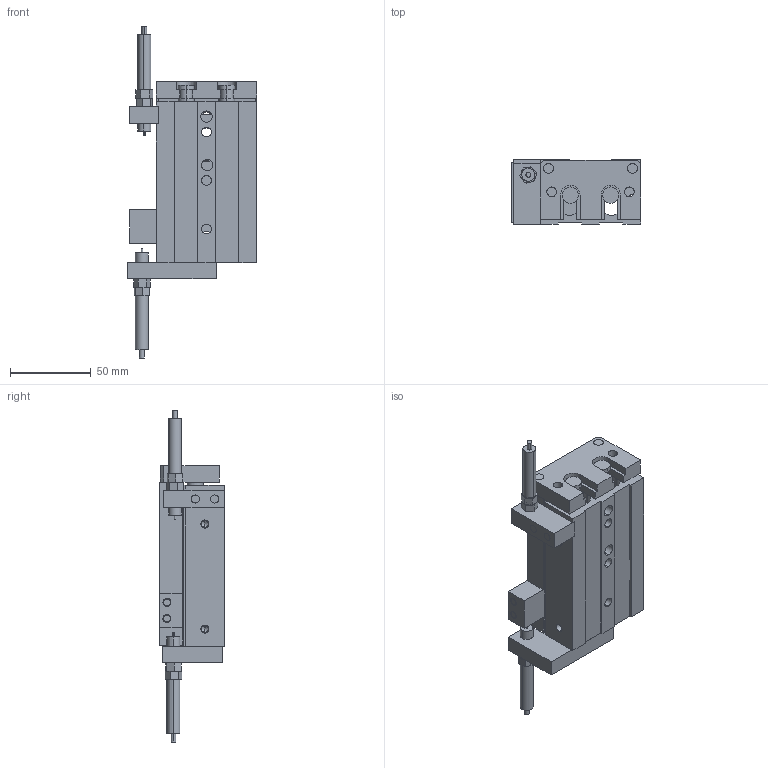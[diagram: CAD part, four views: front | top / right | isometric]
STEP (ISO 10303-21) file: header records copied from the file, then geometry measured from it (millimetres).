
FILE_DESCRIPTION (( 'STEP AP203' ), '1' );
FILE_NAME ('GDX 16-50.STEP', '2013-02-25T13:42:54', ( 'Conseil Régional Haute-Normandie' ), ( 'Conseil Régional Haute-Normandie' ), 'SwSTEP 2.0', 'SolidWorks 2010', '' );
FILE_SCHEMA (( 'CONFIG_CONTROL_DESIGN' ));
Length unit declared in the file: millimetre
Products named in the file (14): GDX 16-50; Pièce1 GDX 16-50_Default; Pièce2 GDX16-50_Default; Pièce6 GDX16-50_Default; Pièce7 GDX16-50_Default; Pièce3 GDX16-10_Default; Pièce5 GDX16-10_Default; Pièce8 GDX16-10_Default; Pièce9 GDX16-10_Default; Pièce 4 GDX16-10; Pièce12 GDX16-10_Default; Pièce10 GDX16-10_Default; GDX25-10 Pièce14_Default; Pièce11 GDX16-50_Default
Assembly tree (27 placements, depth 2):
  GDX 16-50
    Pièce1 GDX 16-50_Default
    GDX25-10 Pièce14_Default  x2
    Pièce2 GDX16-50_Default  x2
    Pièce12 GDX16-10_Default  x4
    Pièce11 GDX16-50_Default  x2
    Pièce9 GDX16-10_Default
    Pièce10 GDX16-10_Default  x8
    Pièce5 GDX16-10_Default  x2
    Pièce8 GDX16-10_Default
    Pièce 4 GDX16-10
    Pièce3 GDX16-10_Default
    Pièce6 GDX16-50_Default
    Pièce7 GDX16-50_Default
Bounding box: 80 x 40 x 205.5 mm (x, y, z)
Volume: 231611.7 mm3; surface area: 98174.5 mm2
Topology: 27 solids, 27 shells, 760 faces, 1920 edges, 1260 vertices
Faces by surface type: plane 397, cylinder 206, bspline 133, cone 24
Entity records: 31706 total; most frequent: CARTESIAN_POINT 14684, ORIENTED_EDGE 3288, DIRECTION 2742, EDGE_CURVE 1644, VERTEX_POINT 1092, VECTOR 1078, LINE 1078, AXIS2_PLACEMENT_3D 832
